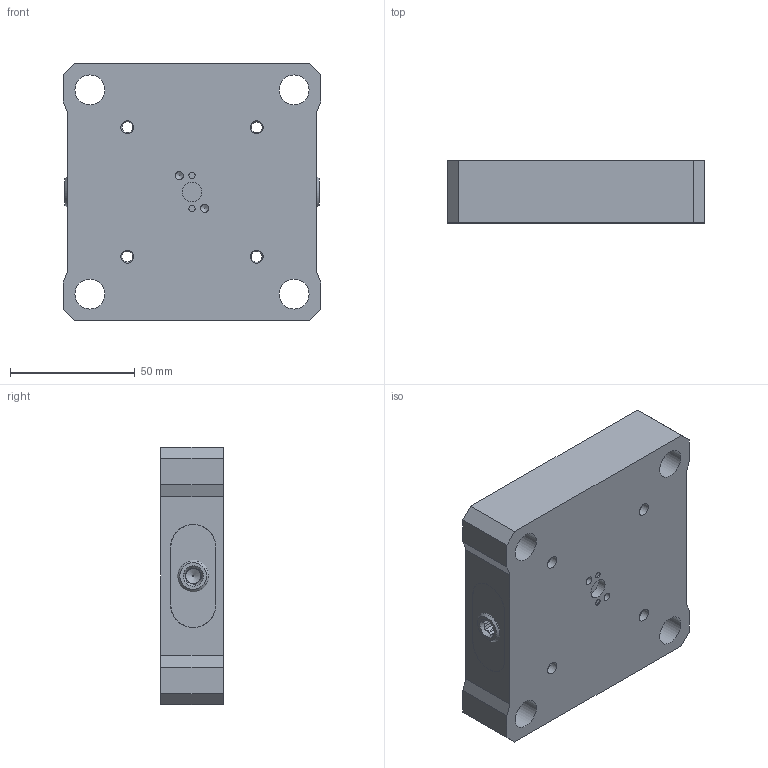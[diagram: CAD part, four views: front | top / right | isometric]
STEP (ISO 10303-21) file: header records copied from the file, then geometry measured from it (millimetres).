
FILE_DESCRIPTION (( 'STEP AP214' ), '1' );
FILE_NAME ('RL52A-44_WEBSITE.STEP', '2025-08-11T12:00:00', ( '' ), ( '' ), 'SwSTEP 2.0', 'SolidWorks 2025', '' );
FILE_SCHEMA (( 'AUTOMOTIVE_DESIGN' ));
Length unit declared in the file: inch
Products named in the file (10): 9750K720_PLASTIC ROUND PLUG_WEBSITE_9750K72; D_92981A144_ALLOY STEEL SHOULDER SCREW_WEBSITE_92981A144; D_HW22X16.DB_WEBSITE; RL52A-44_WEBSITE; 9452K77-Truck-O-Ring_WEBSITE; 9452K168-Base-O-Ring_WEBSITE; D_RL52-144A REV P01_WEBSITE; D_RL52-3_WEBSITE; D_RL52-2R_WEBSITE; D_RL52-2L_WEBSITE
Assembly tree (16 placements, depth 2):
  9750K720_PLASTIC ROUND PLUG_WEBSITE_9750K72
  RL52A-44_WEBSITE
    D_RL52-144A REV P01_WEBSITE
    D_RL52-2L_WEBSITE
    D_RL52-2R_WEBSITE
    D_RL52-3_WEBSITE
    D_HW22X16.DB_WEBSITE  x4
    D_92981A144_ALLOY STEEL SHOULDER SCREW_WEBSITE_92981A144  x2
    9452K168-Base-O-Ring_WEBSITE  x4
    9452K77-Truck-O-Ring_WEBSITE  x2
Bounding box: 103.5 x 25 x 103.5 mm (x, y, z)
Volume: 216537.1 mm3; surface area: 66011.3 mm2
Topology: 18 solids, 18 shells, 286 faces, 622 edges, 389 vertices
Faces by surface type: plane 169, cylinder 87, cone 22, torus 6, bspline 2
Full cylindrical faces by diameter (mm): 0.254 x2, 2.5 x2, 3 x2, 3.3 x2, 4 x2, 4.089 x2, 5.182 x4, 6 x2, 6.147 x2, 7 x2, 8.026 x1, 8.89 x1, 9.144 x4, 9.525 x4, 12 x2, 12.02 x4, 13.754 x2, 15.24 x2, 15.291 x4, 15.875 x1, 16.002 x4, 16.03 x4, 17.5 x4, 21.976 x4, 21.994 x4, 22.047 x4
Entity records: 8247 total; most frequent: CARTESIAN_POINT 2393, DIRECTION 1144, ORIENTED_EDGE 924, EDGE_CURVE 462, AXIS2_PLACEMENT_3D 457, EDGE_LOOP 386, VERTEX_POINT 332, FACE_OUTER_BOUND 308
